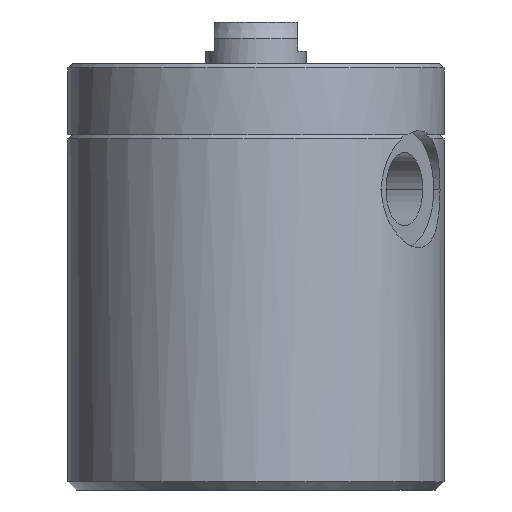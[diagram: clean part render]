
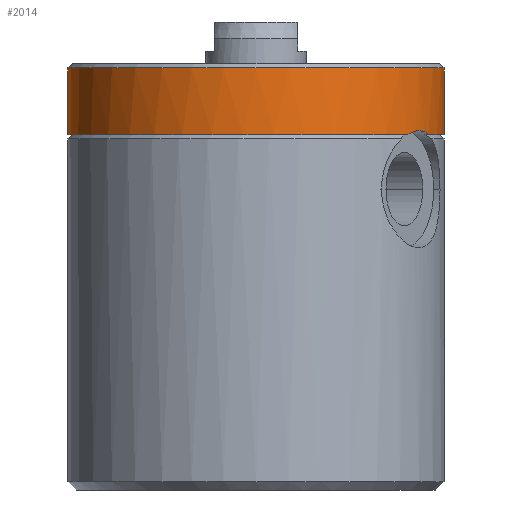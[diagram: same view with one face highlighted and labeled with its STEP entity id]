
A CAD part, front view. The second image highlights one B-rep face of the part: STEP entity #2014.
In plain terms, the highlighted cylindrical face has radius 22.5 mm (diameter 45 mm), a partial arc.
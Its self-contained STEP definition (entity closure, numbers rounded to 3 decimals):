
#189 = VERTEX_POINT ( 'NONE', #1505 ) ;
#200 = CARTESIAN_POINT ( 'NONE',  ( -22.5, 0., 42.5 ) ) ;
#304 = DIRECTION ( 'NONE',  ( 0., 0., -1. ) ) ;
#356 = DIRECTION ( 'NONE',  ( -1., 0., 0. ) ) ;
#407 = CARTESIAN_POINT ( 'NONE',  ( 0., 0., 50.5 ) ) ;
#411 = DIRECTION ( 'NONE',  ( 0., 0., -1. ) ) ;
#420 = DIRECTION ( 'NONE',  ( 1., 0., 0. ) ) ;
#433 = CIRCLE ( 'NONE', #1015, 22.5 ) ;
#439 = CIRCLE ( 'NONE', #1028, 22.5 ) ;
#454 = CIRCLE ( 'NONE', #1022, 22.5 ) ;
#456 = CARTESIAN_POINT ( 'NONE',  ( 20.654, -8.925, 42.5 ) ) ;
#483 = CARTESIAN_POINT ( 'NONE',  ( 20.018, -10.275, 42.915 ) ) ;
#489 = CARTESIAN_POINT ( 'NONE',  ( 0., 0., 42.5 ) ) ;
#501 = DIRECTION ( 'NONE',  ( 1., 0., 0. ) ) ;
#550 = DIRECTION ( 'NONE',  ( 0., 0., 1. ) ) ;
#582 = CARTESIAN_POINT ( 'NONE',  ( 19.707, -10.86, 42.989 ) ) ;
#606 = CARTESIAN_POINT ( 'NONE',  ( 18.554, -12.736, 42.791 ) ) ;
#614 = CARTESIAN_POINT ( 'NONE',  ( 20.31, -9.693, 42.789 ) ) ;
#648 = VECTOR ( 'NONE', #1067, 1000. ) ;
#649 = CARTESIAN_POINT ( 'NONE',  ( 19.917, -10.47, 42.947 ) ) ;
#654 = VECTOR ( 'NONE', #2500, 1000. ) ;
#658 = CARTESIAN_POINT ( 'NONE',  ( 19.597, -11.056, 43. ) ) ;
#662 = LINE ( 'NONE', #711, #654 ) ;
#669 = LINE ( 'NONE', #1569, #648 ) ;
#670 = CARTESIAN_POINT ( 'NONE',  ( 19.033, -12.008, 42.958 ) ) ;
#674 = CARTESIAN_POINT ( 'NONE',  ( 18.305, -13.09, 42.665 ) ) ;
#701 = CARTESIAN_POINT ( 'NONE',  ( 19.264, -11.634, 43. ) ) ;
#711 = CARTESIAN_POINT ( 'NONE',  ( 22.5, 0., 51. ) ) ;
#716 = CARTESIAN_POINT ( 'NONE',  ( 18.056, -13.425, 42.5 ) ) ;
#789 = CARTESIAN_POINT ( 'NONE',  ( 0., 0., 42.5 ) ) ;
#842 = CARTESIAN_POINT ( 'NONE',  ( 20.489, -9.307, 42.665 ) ) ;
#878 = DIRECTION ( 'NONE',  ( 0., 0., 1. ) ) ;
#901 = DIRECTION ( 'NONE',  ( 1., 0., 0. ) ) ;
#1007 = CYLINDRICAL_SURFACE ( 'NONE', #1432, 22.5 ) ;
#1015 = AXIS2_PLACEMENT_3D ( 'NONE', #789, #878, #901 ) ;
#1022 = AXIS2_PLACEMENT_3D ( 'NONE', #407, #411, #420 ) ;
#1023 = FACE_OUTER_BOUND ( 'NONE', #3111, .T. ) ;
#1028 = AXIS2_PLACEMENT_3D ( 'NONE', #489, #550, #501 ) ;
#1067 = DIRECTION ( 'NONE',  ( 0., 0., -1. ) ) ;
#1432 = AXIS2_PLACEMENT_3D ( 'NONE', #1479, #304, #356 ) ;
#1479 = CARTESIAN_POINT ( 'NONE',  ( 0., 0., 51. ) ) ;
#1505 = CARTESIAN_POINT ( 'NONE',  ( 18.056, -13.425, 42.5 ) ) ;
#1569 = CARTESIAN_POINT ( 'NONE',  ( -22.5, 0., 51. ) ) ;
#1709 = VERTEX_POINT ( 'NONE', #2441 ) ;
#2014 = ADVANCED_FACE ( 'NONE', ( #1023 ), #1007, .T. ) ;
#2213 = B_SPLINE_CURVE_WITH_KNOTS ( 'NONE', 3,
 ( #456, #842, #614, #483, #649, #582, #658, #701, #670, #606, #674, #716 ),
 .UNSPECIFIED., .F., .F.,
 ( 4, 2, 2, 2, 2, 4 ),
 ( 0., 0.001, 0.002, 0.003, 0.004, 0.005 ),
 .UNSPECIFIED. ) ;
#2369 = EDGE_CURVE ( 'NONE', #2840, #2810, #662, .T. ) ;
#2377 = EDGE_CURVE ( 'NONE', #1709, #3027, #669, .T. ) ;
#2441 = CARTESIAN_POINT ( 'NONE',  ( -22.5, 0., 50.5 ) ) ;
#2500 = DIRECTION ( 'NONE',  ( 0., 0., -1. ) ) ;
#2559 = CARTESIAN_POINT ( 'NONE',  ( 22.5, 0., 50.5 ) ) ;
#2632 = EDGE_CURVE ( 'NONE', #2840, #1709, #454, .T. ) ;
#2637 = EDGE_CURVE ( 'NONE', #3027, #189, #439, .T. ) ;
#2649 = EDGE_CURVE ( 'NONE', #2782, #189, #2213, .T. ) ;
#2655 = EDGE_CURVE ( 'NONE', #2782, #2810, #433, .T. ) ;
#2782 = VERTEX_POINT ( 'NONE', #3013 ) ;
#2810 = VERTEX_POINT ( 'NONE', #2836 ) ;
#2836 = CARTESIAN_POINT ( 'NONE',  ( 22.5, 0., 42.5 ) ) ;
#2840 = VERTEX_POINT ( 'NONE', #2559 ) ;
#3013 = CARTESIAN_POINT ( 'NONE',  ( 20.654, -8.925, 42.5 ) ) ;
#3027 = VERTEX_POINT ( 'NONE', #200 ) ;
#3111 = EDGE_LOOP ( 'NONE', ( #3180, #3175, #3168, #3165, #3162, #3160 ) ) ;
#3160 = ORIENTED_EDGE ( 'NONE', *, *, #2655, .T. ) ;
#3162 = ORIENTED_EDGE ( 'NONE', *, *, #2649, .F. ) ;
#3165 = ORIENTED_EDGE ( 'NONE', *, *, #2637, .T. ) ;
#3168 = ORIENTED_EDGE ( 'NONE', *, *, #2377, .T. ) ;
#3175 = ORIENTED_EDGE ( 'NONE', *, *, #2632, .T. ) ;
#3180 = ORIENTED_EDGE ( 'NONE', *, *, #2369, .F. ) ;
